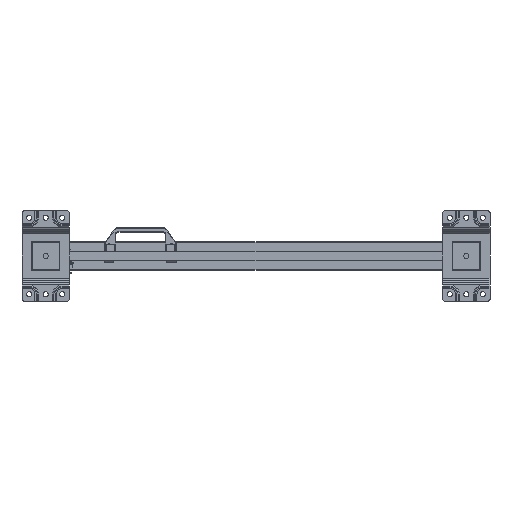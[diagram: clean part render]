
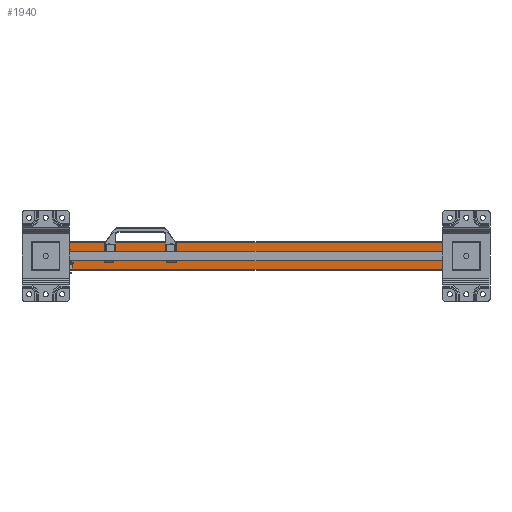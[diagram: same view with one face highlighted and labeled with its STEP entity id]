
A CAD part, front view. The second image highlights one B-rep face of the part: STEP entity #1940.
In plain terms, the highlighted planar face has unit normal (0, -1, 0).
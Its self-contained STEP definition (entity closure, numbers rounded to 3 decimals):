
#1940=ADVANCED_FACE('',(#5741),#5742,.T.);
#5741=FACE_OUTER_BOUND('',#11714,.T.);
#5742=PLANE('',#11715);
#11714=EDGE_LOOP('',(#19231,#19232,#19233,#19234));
#11715=AXIS2_PLACEMENT_3D('',#19235,#19236,#19237);
#19231=ORIENTED_EDGE('',*,*,#36022,.T.);
#19232=ORIENTED_EDGE('',*,*,#36023,.F.);
#19233=ORIENTED_EDGE('',*,*,#36024,.T.);
#19234=ORIENTED_EDGE('',*,*,#36012,.T.);
#19235=CARTESIAN_POINT('',(0.0,2339.0,30.));
#19236=DIRECTION('',(0.,-1.0,0.));
#19237=DIRECTION('',(-1.0,0.,0.0));
#36012=EDGE_CURVE('',#42922,#42920,#42923,.T.);
#36022=EDGE_CURVE('',#42920,#42935,#42936,.T.);
#36023=EDGE_CURVE('',#42937,#42935,#42938,.T.);
#36024=EDGE_CURVE('',#42937,#42922,#42939,.T.);
#42920=VERTEX_POINT('',#53050);
#42922=VERTEX_POINT('',#53053);
#42923=LINE('',#53054,#53055);
#42935=VERTEX_POINT('',#53073);
#42936=LINE('',#53074,#53075);
#42937=VERTEX_POINT('',#53076);
#42938=LINE('',#53077,#53078);
#42939=LINE('',#53079,#53080);
#53050=CARTESIAN_POINT('',(830.0,2339.0,-30.));
#53053=CARTESIAN_POINT('',(0.,2339.0,-30.));
#53054=CARTESIAN_POINT('',(0.,2339.0,-30.));
#53055=VECTOR('',#68364,10.0);
#53073=CARTESIAN_POINT('',(830.0,2339.0,30.));
#53074=CARTESIAN_POINT('',(830.0,2339.0,15.));
#53075=VECTOR('',#68371,1.0);
#53076=CARTESIAN_POINT('',(0.0,2339.0,30.));
#53077=CARTESIAN_POINT('',(0.0,2339.0,30.));
#53078=VECTOR('',#68372,10.0);
#53079=CARTESIAN_POINT('',(0.0,2339.0,30.));
#53080=VECTOR('',#68373,10.0);
#68364=DIRECTION('',(1.0,0.,0.));
#68371=DIRECTION('',(-0.0,0.,1.0));
#68372=DIRECTION('',(1.0,0.,0.));
#68373=DIRECTION('',(0.,0.,-1.0));
